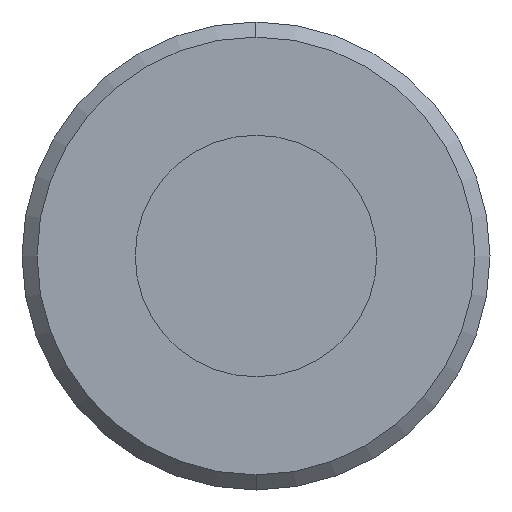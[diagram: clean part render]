
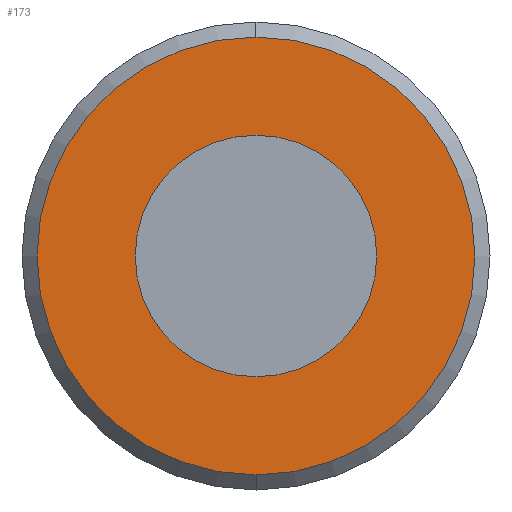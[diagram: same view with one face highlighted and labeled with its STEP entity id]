
A CAD part, left-side view. The second image highlights one B-rep face of the part: STEP entity #173.
In plain terms, the highlighted planar face has unit normal (-1, 0, 0).
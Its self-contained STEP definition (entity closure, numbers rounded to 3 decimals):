
#10 = EDGE_CURVE ( 'NONE', #616, #545, #328, .T. ) ;
#11 = DIRECTION ( 'NONE',  ( 0., 0., 1. ) ) ;
#14 = CARTESIAN_POINT ( 'NONE',  ( 80.7, 0., 8. ) ) ;
#39 = AXIS2_PLACEMENT_3D ( 'NONE', #140, #620, #11 ) ;
#41 = ORIENTED_EDGE ( 'NONE', *, *, #811, .F. ) ;
#57 = DIRECTION ( 'NONE',  ( 0., 0., -1. ) ) ;
#80 = DIRECTION ( 'NONE',  ( 0., 0., -1. ) ) ;
#89 = FACE_OUTER_BOUND ( 'NONE', #123, .T. ) ;
#123 = EDGE_LOOP ( 'NONE', ( #838, #41 ) ) ;
#140 = CARTESIAN_POINT ( 'NONE',  ( 80.7, 14.5, 0. ) ) ;
#146 = AXIS2_PLACEMENT_3D ( 'NONE', #304, #442, #376 ) ;
#161 = AXIS2_PLACEMENT_3D ( 'NONE', #809, #460, #57 ) ;
#166 = CARTESIAN_POINT ( 'NONE',  ( 80.7, 0., 0. ) ) ;
#173 = ADVANCED_FACE ( 'NONE', ( #708, #89 ), #207, .T. ) ;
#174 = DIRECTION ( 'NONE',  ( 0., 0., -1. ) ) ;
#180 = AXIS2_PLACEMENT_3D ( 'NONE', #352, #768, #80 ) ;
#207 = PLANE ( 'NONE',  #39 ) ;
#234 = CIRCLE ( 'NONE', #161, 8. ) ;
#304 = CARTESIAN_POINT ( 'NONE',  ( 80.7, 0., 0. ) ) ;
#309 = CARTESIAN_POINT ( 'NONE',  ( 80.7, 0., 14.5 ) ) ;
#313 = EDGE_LOOP ( 'NONE', ( #425, #475 ) ) ;
#328 = CIRCLE ( 'NONE', #146, 14.5 ) ;
#348 = VERTEX_POINT ( 'NONE', #14 ) ;
#352 = CARTESIAN_POINT ( 'NONE',  ( 80.7, 0., 0. ) ) ;
#376 = DIRECTION ( 'NONE',  ( 0., 0., -1. ) ) ;
#397 = CARTESIAN_POINT ( 'NONE',  ( 80.7, 0., -14.5 ) ) ;
#425 = ORIENTED_EDGE ( 'NONE', *, *, #679, .T. ) ;
#442 = DIRECTION ( 'NONE',  ( 1., 0., 0. ) ) ;
#460 = DIRECTION ( 'NONE',  ( 1., 0., 0. ) ) ;
#475 = ORIENTED_EDGE ( 'NONE', *, *, #555, .T. ) ;
#545 = VERTEX_POINT ( 'NONE', #309 ) ;
#555 = EDGE_CURVE ( 'NONE', #348, #647, #234, .T. ) ;
#583 = DIRECTION ( 'NONE',  ( 1., 0., 0. ) ) ;
#616 = VERTEX_POINT ( 'NONE', #397 ) ;
#620 = DIRECTION ( 'NONE',  ( -1., 0., 0. ) ) ;
#647 = VERTEX_POINT ( 'NONE', #834 ) ;
#679 = EDGE_CURVE ( 'NONE', #647, #348, #788, .T. ) ;
#708 = FACE_BOUND ( 'NONE', #313, .T. ) ;
#768 = DIRECTION ( 'NONE',  ( 1., 0., 0. ) ) ;
#776 = CIRCLE ( 'NONE', #806, 14.5 ) ;
#788 = CIRCLE ( 'NONE', #180, 8. ) ;
#806 = AXIS2_PLACEMENT_3D ( 'NONE', #166, #583, #174 ) ;
#809 = CARTESIAN_POINT ( 'NONE',  ( 80.7, 0., 0. ) ) ;
#811 = EDGE_CURVE ( 'NONE', #545, #616, #776, .T. ) ;
#834 = CARTESIAN_POINT ( 'NONE',  ( 80.7, 0., -8. ) ) ;
#838 = ORIENTED_EDGE ( 'NONE', *, *, #10, .F. ) ;
